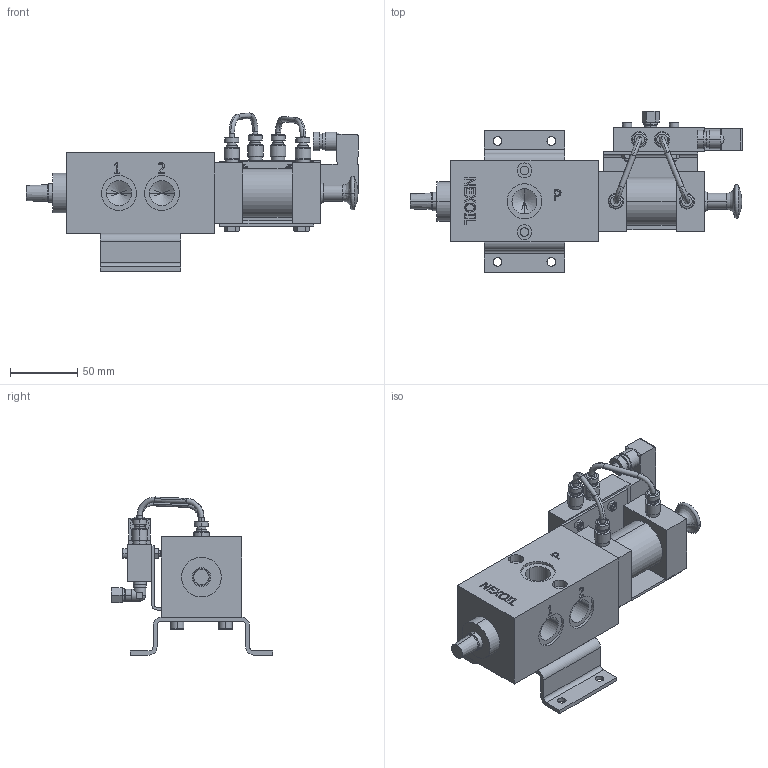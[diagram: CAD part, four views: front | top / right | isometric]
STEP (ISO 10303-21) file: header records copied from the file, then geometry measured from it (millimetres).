
FILE_DESCRIPTION((''),'2;1');
FILE_NAME('5057006_7_8_10_3D.stp','2017-05-31T13:34:20',(''),(''),'Mechanical Desktop 2008','Mechanical Desktop 2008',', , ');
FILE_SCHEMA(('AUTOMOTIVE_DESIGN { 1 2 10303 214 1 1 1 1 }'));
Length unit declared in the file: millimetre
Products named in the file (14): 5057006_7_8_10_3D; PART1; PART2; ~PART1; PART3; PART4; PART5; PART6; HEX-HEAD BOLT - UNI 5739 - M6 X 12; CYLINDER HEAD CAP SCREW - UNI 5931 - M 4 X  25; HEX NUT - ISO 4032 - M4; ~~PART1; ~~~PART1; CYLINDER HEAD CAP SCREW - UNI 5931 - M 6 X  16
Assembly tree (22 placements, depth 2):
  5057006_7_8_10_3D
    PART1
    PART2
    ~PART1
    PART3
    PART4  x4
    PART5
    PART6
    HEX-HEAD BOLT - UNI 5739 - M6 X 12  x2
    CYLINDER HEAD CAP SCREW - UNI 5931 - M 4 X  25  x2
    HEX NUT - ISO 4032 - M4  x2
    ~~PART1
    ~~~PART1
    CYLINDER HEAD CAP SCREW - UNI 5931 - M 6 X  16  x4
Bounding box: 247.25 x 120 x 117.7 mm (x, y, z)
Volume: 594140 mm3; surface area: 123712.8 mm2
Topology: 23 solids, 24 shells, 815 faces, 1990 edges, 1265 vertices
Faces by surface type: plane 331, cylinder 229, bspline 110, cone 109, torus 34, sphere 2
Entity records: 19276 total; most frequent: CARTESIAN_POINT 4755, ORIENTED_EDGE 3020, DIRECTION 2782, EDGE_CURVE 1510, VERTEX_POINT 989, AXIS2_PLACEMENT_3D 972, VECTOR 838, LINE 838
